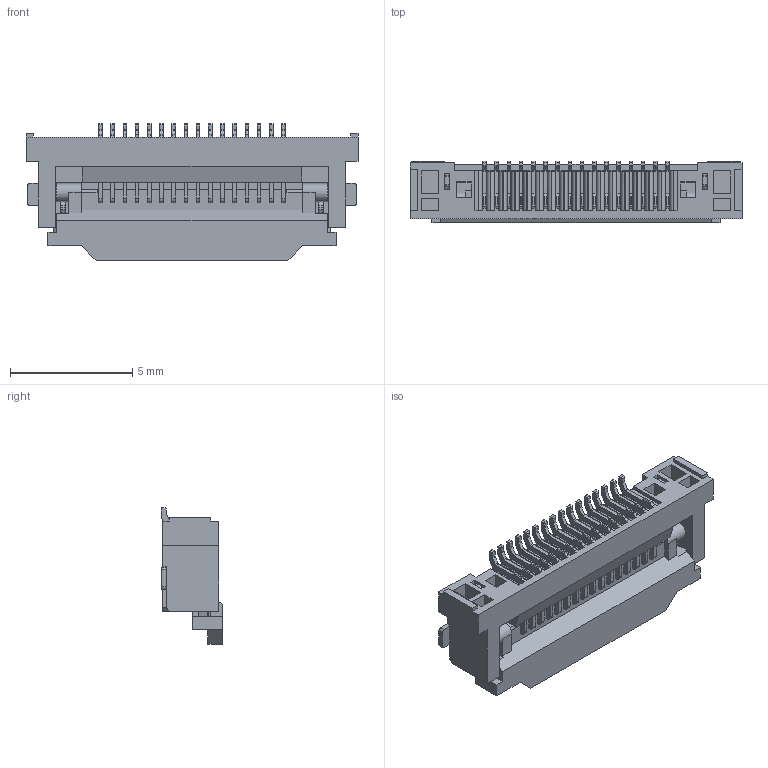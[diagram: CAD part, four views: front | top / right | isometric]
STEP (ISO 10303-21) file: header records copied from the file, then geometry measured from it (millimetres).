
FILE_DESCRIPTION((''),'2;1');
FILE_NAME('PRT0007','2022-08-06T',('d00133'),(''),'CREO PARAMETRIC BY PTC INC, 2014500','CREO PARAMETRIC BY PTC INC, 2014500','');
FILE_SCHEMA(('CONFIG_CONTROL_DESIGN'));
Length unit declared in the file: millimetre
Products named in the file (1): PRT0007
Bounding box: 13.6 x 2.5 x 5.6 mm (x, y, z)
Volume: 90.2 mm3; surface area: 412.9 mm2
Topology: 1 solids, 1 shells, 1390 faces, 4324 edges, 2848 vertices
Faces by surface type: plane 996, cylinder 394
Entity records: 48350 total; most frequent: CARTESIAN_POINT 9023, ORIENTED_EDGE 8496, DIRECTION 7974, EDGE_CURVE 4248, VECTOR 3384, LINE 3384, VERTEX_POINT 2772, AXIS2_PLACEMENT_3D 2295
